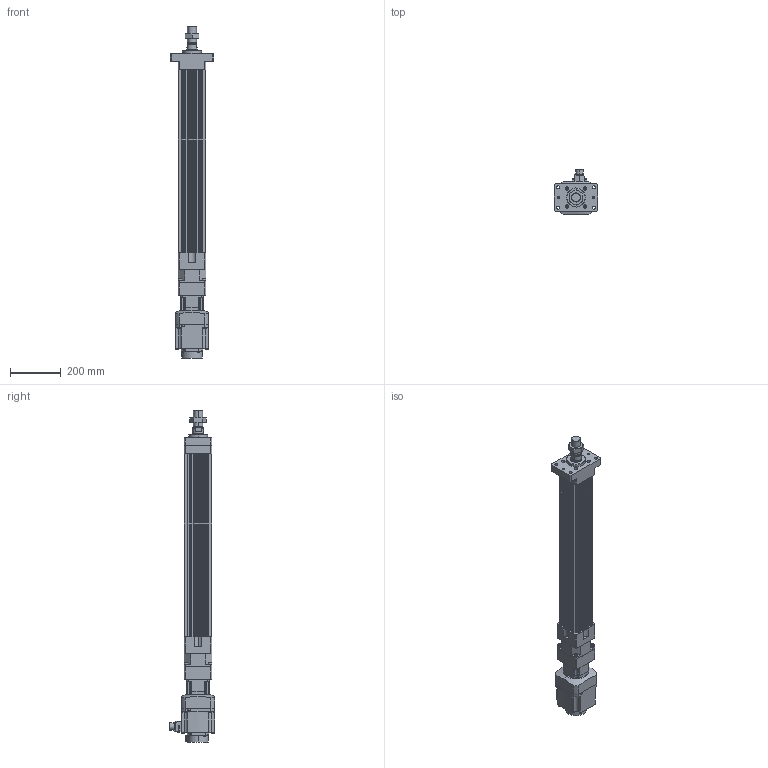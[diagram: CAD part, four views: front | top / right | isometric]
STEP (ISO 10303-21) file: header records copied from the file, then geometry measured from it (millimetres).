
FILE_DESCRIPTION (( 'STEP AP203' ), '1' );
FILE_NAME ('HES110NS(HS)-S550-W010G00-M-FM.STEP', '2023-01-27T07:30:39', ( 'tms' ), ( '' ), 'SwSTEP 2.0', 'SolidWorks 2013', '' );
FILE_SCHEMA (( 'CONFIG_CONTROL_DESIGN' ));
Length unit declared in the file: millimetre
Products named in the file (8): M36X1.5P; AB0901; P0401301004; HES110 ROD M ST550; HES110-S550-G090-FM; HES110NS(HS)-S550-W010G00-M-FM; HG-SR102; AB090-003[HG-SR102B]
Assembly tree (7 placements, depth 3):
  HES110NS(HS)-S550-W010G00-M-FM
    HES110-S550-G090-FM
    HES110 ROD M ST550
    M36X1.5P
    AB090-003[HG-SR102B]
      AB0901
      P0401301004
    HG-SR102
Bounding box: 170 x 177.49 x 1308.5 mm (x, y, z)
Volume: 8534011.1 mm3; surface area: 1172297.2 mm2
Topology: 4 solids, 15 shells, 1165 faces, 2950 edges, 1921 vertices
Faces by surface type: plane 558, cylinder 523, cone 72, bspline 8, torus 4
Entity records: 37081 total; most frequent: CARTESIAN_POINT 7224, DIRECTION 6367, ORIENTED_EDGE 5848, EDGE_CURVE 2934, AXIS2_PLACEMENT_3D 2335, VERTEX_POINT 1921, LINE 1697, VECTOR 1697
